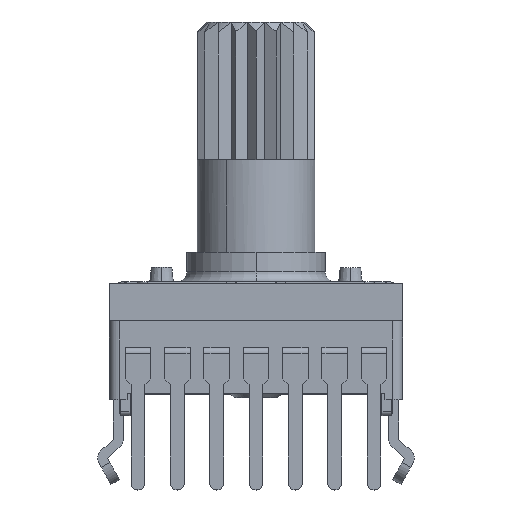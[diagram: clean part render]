
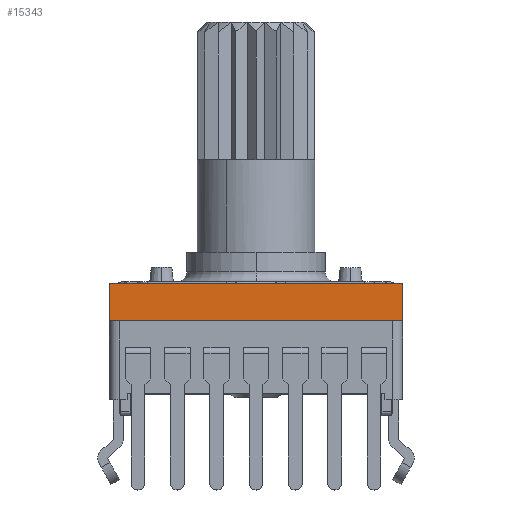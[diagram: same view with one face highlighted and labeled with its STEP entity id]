
A CAD part, top view. The second image highlights one B-rep face of the part: STEP entity #15343.
In plain terms, the highlighted planar face has unit normal (0, 0, 1).
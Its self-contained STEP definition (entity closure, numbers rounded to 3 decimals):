
#260 = VERTEX_POINT ( 'NONE', #18207 ) ;
#1328 = VECTOR ( 'NONE', #9652, 1000. ) ;
#2461 = EDGE_CURVE ( 'NONE', #14221, #260, #5893, .T. ) ;
#3327 = ORIENTED_EDGE ( 'NONE', *, *, #8598, .F. ) ;
#3417 = DIRECTION ( 'NONE',  ( 0., 1., 0. ) ) ;
#4206 = ORIENTED_EDGE ( 'NONE', *, *, #10977, .T. ) ;
#4977 = VERTEX_POINT ( 'NONE', #10437 ) ;
#5893 = LINE ( 'NONE', #14541, #10980 ) ;
#6499 = DIRECTION ( 'NONE',  ( 0., 0., 1. ) ) ;
#6656 = LINE ( 'NONE', #12520, #1328 ) ;
#7304 = EDGE_LOOP ( 'NONE', ( #4206, #8155, #3327, #18040 ) ) ;
#7779 = CARTESIAN_POINT ( 'NONE',  ( -7.45, 3.7, -1. ) ) ;
#8155 = ORIENTED_EDGE ( 'NONE', *, *, #2461, .F. ) ;
#8598 = EDGE_CURVE ( 'NONE', #16516, #14221, #14927, .T. ) ;
#8991 = DIRECTION ( 'NONE',  ( 1., 0., 0. ) ) ;
#9652 = DIRECTION ( 'NONE',  ( 1., 0., 0. ) ) ;
#10437 = CARTESIAN_POINT ( 'NONE',  ( 7.45, 3.7, -1. ) ) ;
#10731 = PLANE ( 'NONE',  #17907 ) ;
#10760 = VECTOR ( 'NONE', #3417, 1000. ) ;
#10977 = EDGE_CURVE ( 'NONE', #4977, #260, #17963, .T. ) ;
#10980 = VECTOR ( 'NONE', #8991, 1000. ) ;
#11276 = CARTESIAN_POINT ( 'NONE',  ( -7.45, 5.6, -1. ) ) ;
#11678 = DIRECTION ( 'NONE',  ( 0., 1., 0. ) ) ;
#12173 = FACE_OUTER_BOUND ( 'NONE', #7304, .T. ) ;
#12355 = DIRECTION ( 'NONE',  ( 1., 0., 0. ) ) ;
#12520 = CARTESIAN_POINT ( 'NONE',  ( 0., 3.7, -1. ) ) ;
#13398 = CARTESIAN_POINT ( 'NONE',  ( 7.45, 3.7, -1. ) ) ;
#13577 = VECTOR ( 'NONE', #11678, 1000. ) ;
#14100 = EDGE_CURVE ( 'NONE', #16516, #4977, #6656, .T. ) ;
#14221 = VERTEX_POINT ( 'NONE', #11276 ) ;
#14541 = CARTESIAN_POINT ( 'NONE',  ( 7.45, 5.6, -1. ) ) ;
#14927 = LINE ( 'NONE', #17769, #13577 ) ;
#15343 = ADVANCED_FACE ( 'NONE', ( #12173 ), #10731, .T. ) ;
#16516 = VERTEX_POINT ( 'NONE', #7779 ) ;
#16552 = CARTESIAN_POINT ( 'NONE',  ( 0., 3.7, -1. ) ) ;
#17769 = CARTESIAN_POINT ( 'NONE',  ( -7.45, 3.7, -1. ) ) ;
#17907 = AXIS2_PLACEMENT_3D ( 'NONE', #16552, #6499, #12355 ) ;
#17963 = LINE ( 'NONE', #13398, #10760 ) ;
#18040 = ORIENTED_EDGE ( 'NONE', *, *, #14100, .T. ) ;
#18207 = CARTESIAN_POINT ( 'NONE',  ( 7.45, 5.6, -1. ) ) ;
